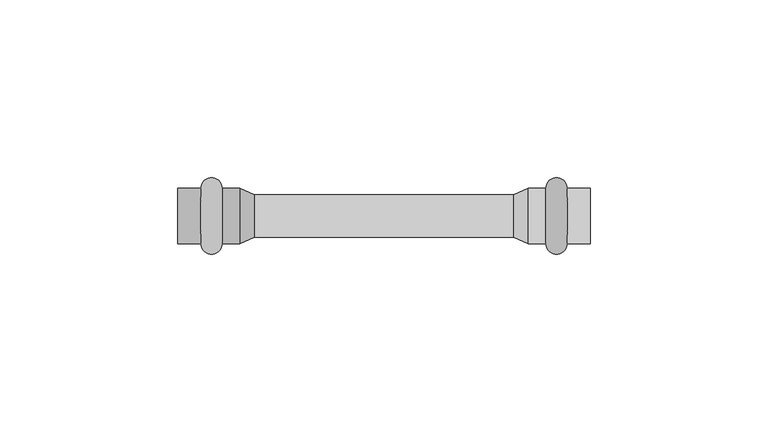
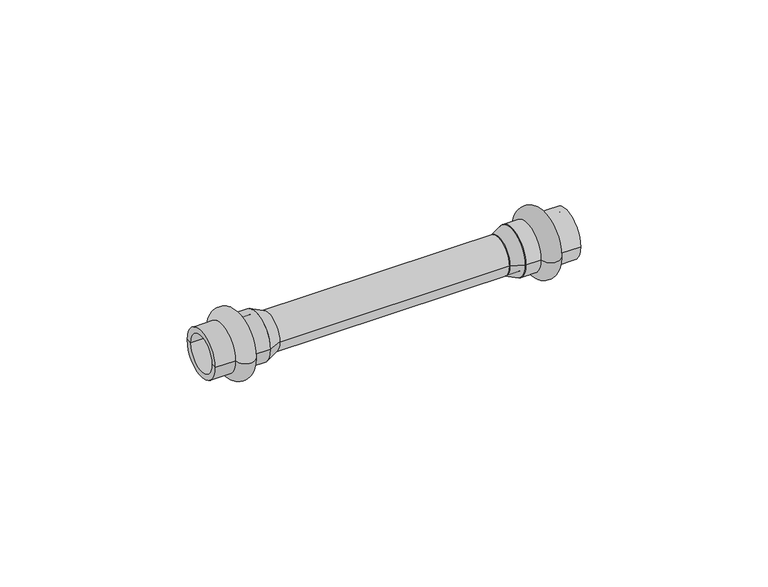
"""IFC4 building model written with IfcOpenShell, lengths in millimetres: pipe fitting geometry, VALTEC_VTi.903.I_Соединитель прямой нержавеющая сталь : VTi.903.I."""

from ifc_helpers import new_model, si_unit, point, frame, origin, origin_2d, place, context, project, spatial, polyline, circle_curve, ellipse_curve, trimmed, segment, composite_curve, outline, extrude, source, transform, mapped, element, save
from ifc_brep_helpers import plane_surface, cylinder_surface, revolved_surface, advanced_brep


def pipe_fitting_80d87ce1(model_context):
    return source(origin(), model_context, "Body", "SolidModel", [
        advanced_brep(
        [(109.5, 7.75, 0.0), (109.5, -7.75, 0.0), (103.5, -7.75, 0.0), (103.5, 7.75, 0.0), (116.0, 7.75, 0.0), (116.0, -7.75, 0.0), (116.0, 6.0, 0.0), (116.0, -6.0, 0.0), (98.6, 6.0, 0.0), (98.6, -6.0, 0.0), (98.6, 7.75, 0.0), (98.6, -7.75, 0.0)],
        [
            (0, 1, circle_curve(frame((109.5, 0.0, 0.0), z_axis=(-1.0, 0.0, 0.0), x_axis=(0.0, -1.0, 0.0)), 7.75)),
            (1, 2, circle_curve(frame((106.5, -7.75, 0.0), z_axis=(0.0, 0.0, -1.0), x_axis=(-1.0, 0.0, 0.0)), 3.0)),
            (2, 3, circle_curve(frame((103.5, 0.0, 0.0), z_axis=(1.0, 0.0, 0.0), x_axis=(0.0, -1.0, 0.0)), 7.75)),
            (3, 0, circle_curve(frame((106.5, 7.75, 0.0), z_axis=(0.0, 0.0, -1.0), x_axis=(-1.0, 0.0, 0.0)), 3.0)),
            (1, 0, circle_curve(frame((109.5, 0.0, 0.0), z_axis=(-1.0, 0.0, 0.0), x_axis=(0.0, -1.0, 0.0)), 7.75)),
            (3, 2, circle_curve(frame((103.5, 0.0, 0.0), z_axis=(1.0, 0.0, 0.0), x_axis=(0.0, -1.0, 0.0)), 7.75)),
            (4, 5, circle_curve(frame((116.0, 0.0, 0.0), z_axis=(-1.0, 0.0, 0.0), x_axis=(0.0, -1.0, 0.0)), 7.75)),
            (5, 1),
            (0, 4),
            (5, 4, circle_curve(frame((116.0, 0.0, 0.0), z_axis=(-1.0, 0.0, 0.0), x_axis=(0.0, -1.0, 0.0)), 7.75)),
            (6, 7, circle_curve(frame((116.0, 0.0, 0.0), z_axis=(-1.0, 0.0, 0.0), x_axis=(0.0, -1.0, 0.0)), 6.0)),
            (7, 5),
            (4, 6),
            (7, 6, circle_curve(frame((116.0, 0.0, 0.0), z_axis=(-1.0, 0.0, 0.0), x_axis=(0.0, -1.0, 0.0)), 6.0)),
            (8, 9, circle_curve(frame((98.6, 0.0, 0.0), z_axis=(-1.0, 0.0, 0.0), x_axis=(0.0, -1.0, 0.0)), 6.0)),
            (9, 7),
            (6, 8),
            (9, 8, circle_curve(frame((98.6, 0.0, 0.0), z_axis=(-1.0, 0.0, 0.0), x_axis=(0.0, -1.0, 0.0)), 6.0)),
            (10, 11, circle_curve(frame((98.6, 0.0, 0.0), z_axis=(-1.0, 0.0, 0.0), x_axis=(0.0, -1.0, 0.0)), 7.75)),
            (11, 9),
            (8, 10),
            (11, 10, circle_curve(frame((98.6, 0.0, 0.0), z_axis=(-1.0, 0.0, 0.0), x_axis=(0.0, -1.0, 0.0)), 7.75)),
            (2, 11),
            (10, 3),
        ],
        [
            revolved_surface(trimmed(ellipse_curve(frame((106.5, -7.75, 0.0), z_axis=(0.0, 0.0, 1.0), x_axis=(-1.0, 0.0, 0.0)), 3.0, 3.0), [point((103.5, -7.75, 0.0))], [point((109.5, -7.75, 0.0))], True, "CARTESIAN"), (119.5364426, 0.0, 0.0), (1.0, 0.0, 0.0)),
            cylinder_surface(frame((119.5364426, 0.0, 0.0), z_axis=(1.0, 0.0, 0.0), x_axis=(0.0, -1.0, 0.0)), 7.75),
            plane_surface(frame((116.0, 0.0, 0.0), z_axis=(1.0, 0.0, 0.0), x_axis=(0.0, -1.0, 0.0))),
            revolved_surface(polyline([(116.0, -6.0, 0.0), (98.6, -6.0, 0.0)]), (119.5364426, 0.0, 0.0), (1.0, 0.0, 0.0)),
            plane_surface(frame((98.6, 0.0, 0.0), z_axis=(-1.0, 0.0, 0.0), x_axis=(0.0, -1.0, 0.0))),
        ],
        [
            (0, [[1, 2, 3, 4]]),
            (0, [[5, -4, 6, -2]]),
            (1, [[7, 8, -1, 9]]),
            (1, [[10, -9, -5, -8]]),
            (2, [[11, 12, -7, 13]]),
            (2, [[14, -13, -10, -12]]),
            (3, [[15, 16, -11, 17]]),
            (3, [[18, -17, -14, -16]]),
            (4, [[19, 20, -15, 21]]),
            (4, [[22, -21, -18, -20]]),
            (1, [[-3, 23, -19, 24]]),
            (1, [[-6, -24, -22, -23]]),
        ],
    ),
        advanced_brep(
        [(6.5, -7.75, 0.0), (6.5, 7.75, 0.0), (12.5, 7.75, 0.0), (12.5, -7.75, 0.0), (0.0, -7.75, 0.0), (0.0, 7.75, 0.0), (0.0, -6.0, 0.0), (0.0, 6.0, 0.0), (17.4, -6.0, 0.0), (17.4, 6.0, 0.0), (17.4, -7.75, 0.0), (17.4, 7.75, 0.0)],
        [
            (0, 1, circle_curve(frame((6.5, 0.0, 0.0), z_axis=(1.0, 0.0, 0.0), x_axis=(0.0, 1.0, 0.0)), 7.75)),
            (1, 2, circle_curve(frame((9.5, 7.75, 0.0), z_axis=(0.0, 0.0, -1.0), x_axis=(1.0, 0.0, 0.0)), 3.0)),
            (2, 3, circle_curve(frame((12.5, 0.0, 0.0), z_axis=(-1.0, 0.0, 0.0), x_axis=(0.0, 1.0, 0.0)), 7.75)),
            (3, 0, circle_curve(frame((9.5, -7.75, 0.0), z_axis=(0.0, 0.0, -1.0), x_axis=(1.0, 0.0, 0.0)), 3.0)),
            (1, 0, circle_curve(frame((6.5, 0.0, 0.0), z_axis=(1.0, 0.0, 0.0), x_axis=(0.0, 1.0, 0.0)), 7.75)),
            (3, 2, circle_curve(frame((12.5, 0.0, 0.0), z_axis=(-1.0, 0.0, 0.0), x_axis=(0.0, 1.0, 0.0)), 7.75)),
            (4, 5, circle_curve(frame((0.0, 0.0, 0.0), z_axis=(1.0, 0.0, 0.0), x_axis=(0.0, 1.0, 0.0)), 7.75)),
            (5, 1),
            (0, 4),
            (5, 4, circle_curve(frame((0.0, 0.0, 0.0), z_axis=(1.0, 0.0, 0.0), x_axis=(0.0, 1.0, 0.0)), 7.75)),
            (6, 7, circle_curve(frame((0.0, 0.0, 0.0), z_axis=(1.0, 0.0, 0.0), x_axis=(0.0, 1.0, 0.0)), 6.0)),
            (7, 5),
            (4, 6),
            (7, 6, circle_curve(frame((0.0, 0.0, 0.0), z_axis=(1.0, 0.0, 0.0), x_axis=(0.0, 1.0, 0.0)), 6.0)),
            (8, 9, circle_curve(frame((17.4, 0.0, 0.0), z_axis=(1.0, 0.0, 0.0), x_axis=(0.0, 1.0, 0.0)), 6.0)),
            (9, 7),
            (6, 8),
            (9, 8, circle_curve(frame((17.4, 0.0, 0.0), z_axis=(1.0, 0.0, 0.0), x_axis=(0.0, 1.0, 0.0)), 6.0)),
            (10, 11, circle_curve(frame((17.4, 0.0, 0.0), z_axis=(1.0, 0.0, 0.0), x_axis=(0.0, 1.0, 0.0)), 7.75)),
            (11, 9),
            (8, 10),
            (11, 10, circle_curve(frame((17.4, 0.0, 0.0), z_axis=(1.0, 0.0, 0.0), x_axis=(0.0, 1.0, 0.0)), 7.75)),
            (2, 11),
            (10, 3),
        ],
        [
            revolved_surface(trimmed(ellipse_curve(frame((9.5, 7.75, 0.0), z_axis=(0.0, 0.0, 1.0), x_axis=(1.0, 0.0, 0.0)), 3.0, 3.0), [point((12.5, 7.75, 0.0))], [point((6.5, 7.75, 0.0))], True, "CARTESIAN"), (-3.5364426, 0.0, 0.0), (-1.0, 0.0, 0.0)),
            cylinder_surface(frame((-3.5364426, 0.0, 0.0), z_axis=(-1.0, 0.0, 0.0), x_axis=(0.0, 1.0, 0.0)), 7.75),
            plane_surface(frame((0.0, 0.0, 0.0), z_axis=(-1.0, 0.0, 0.0), x_axis=(0.0, 1.0, 0.0))),
            revolved_surface(polyline([(0.0, 6.0, 0.0), (17.4, 6.0, 0.0)]), (-3.5364426, 0.0, 0.0), (-1.0, 0.0, 0.0)),
            plane_surface(frame((17.4, 0.0, 0.0), z_axis=(1.0, 0.0, 0.0), x_axis=(0.0, 1.0, 0.0))),
        ],
        [
            (0, [[1, 2, 3, 4]]),
            (0, [[5, -4, 6, -2]]),
            (1, [[7, 8, -1, 9]]),
            (1, [[10, -9, -5, -8]]),
            (2, [[11, 12, -7, 13]]),
            (2, [[14, -13, -10, -12]]),
            (3, [[15, 16, -11, 17]]),
            (3, [[18, -17, -14, -16]]),
            (4, [[19, 20, -15, 21]]),
            (4, [[22, -21, -18, -20]]),
            (1, [[-3, 23, -19, 24]]),
            (1, [[-6, -24, -22, -23]]),
        ],
    ),
        advanced_brep(
        [(17.4, -7.75, 0.0), (17.4, 7.75, 0.0), (21.46, -6.0, 0.0), (21.46, 6.0, 0.0)],
        [
            (0, 1, circle_curve(frame((17.4, 0.0, 0.0), z_axis=(-1.0, 0.0, 0.0), x_axis=(0.0, -1.0, 0.0)), 7.75)),
            (1, 0, circle_curve(frame((17.4, 0.0, 0.0), z_axis=(-1.0, 0.0, 0.0), x_axis=(0.0, 1.0, 0.0)), 7.75)),
            (2, 3, circle_curve(frame((21.46, 0.0, 0.0), z_axis=(1.0, 0.0, 0.0), x_axis=(0.0, 1.0, 0.0)), 6.0)),
            (3, 2, circle_curve(frame((21.46, 0.0, 0.0), z_axis=(1.0, 0.0, 0.0), x_axis=(0.0, -1.0, 0.0)), 6.0)),
            (2, 0),
            (1, 3),
        ],
        [
            plane_surface(frame((17.4, 0.0, 0.0), z_axis=(-1.0, 0.0, 0.0), x_axis=(0.0, 0.0, 1.0))),
            plane_surface(frame((21.46, 0.0, 0.0), z_axis=(1.0, 0.0, 0.0), x_axis=(0.0, 0.0, 1.0))),
            revolved_surface(polyline([(21.46, -6.0, 0.0), (17.4, -7.75, 0.0)]), (35.38, 0.0, 0.0), (-1.0, 0.0, 0.0)),
            revolved_surface(polyline([(21.46, 6.0, 0.0), (17.4, 7.75, 0.0)]), (35.38, 0.0, 0.0), (-1.0, 0.0, 0.0)),
        ],
        [
            (0, [[1, 2]]),
            (1, [[3, 4]]),
            (2, [[-3, 5, -2, 6]]),
            (3, [[-4, -6, -1, -5]]),
        ],
    ),
        advanced_brep(
        [(98.6, -7.75, 0.0), (98.6, 7.75, 0.0), (94.54, -6.0, 0.0), (94.54, 6.0, 0.0)],
        [
            (0, 1, circle_curve(frame((98.6, 0.0, 0.0), z_axis=(1.0, 0.0, 0.0), x_axis=(0.0, -1.0, 0.0)), 7.75)),
            (1, 0, circle_curve(frame((98.6, 0.0, 0.0), z_axis=(1.0, 0.0, 0.0), x_axis=(0.0, 1.0, 0.0)), 7.75)),
            (2, 3, circle_curve(frame((94.54, 0.0, 0.0), z_axis=(-1.0, 0.0, 0.0), x_axis=(0.0, 1.0, 0.0)), 6.0)),
            (3, 2, circle_curve(frame((94.54, 0.0, 0.0), z_axis=(-1.0, 0.0, 0.0), x_axis=(0.0, -1.0, 0.0)), 6.0)),
            (3, 1),
            (0, 2),
        ],
        [
            plane_surface(frame((98.6, 0.0, 0.0), z_axis=(1.0, 0.0, 0.0), x_axis=(0.0, 0.0, -1.0))),
            plane_surface(frame((94.54, 0.0, 0.0), z_axis=(-1.0, 0.0, 0.0), x_axis=(0.0, 0.0, -1.0))),
            revolved_surface(polyline([(94.54, 6.000000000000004, 0.0), (98.6, 7.75, 0.0)]), (80.62, 0.0, 0.0), (1.0, 0.0, 0.0)),
            revolved_surface(polyline([(94.54, -6.000000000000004, 0.0), (98.6, -7.75, 0.0)]), (80.62, 0.0, 0.0), (1.0, 0.0, 0.0)),
        ],
        [
            (0, [[1, 2]]),
            (1, [[3, 4]]),
            (2, [[-4, 5, -1, 6]]),
            (3, [[-3, -6, -2, -5]]),
        ],
    ),
        extrude(outline(composite_curve([segment(trimmed(circle_curve(origin_2d(), 6.0), [point((-6.0, 0.0))], [point((6.0, 0.0))], False, "CARTESIAN"), True, "CONTINUOUS"), segment(trimmed(circle_curve(origin_2d(), 6.0), [point((6.0, 0.0))], [point((-6.0, 0.0))], False, "CARTESIAN"), True, "CONTINUOUS")], self_intersect=False)), frame((17.4, 0.0, 0.0), z_axis=(1.0, 0.0, 0.0), x_axis=(0.0, 1.0, 0.0)), (0.0, 0.0, 1.0), 81.2),
    ])


if __name__ == "__main__":
    model = new_model("IFC4")
    model_context = context("Model", 3, world=origin())
    ifc_project = project(units=[si_unit("LENGTHUNIT", "METRE", prefix="MILLI")], contexts=[model_context])
    site = spatial("IfcSite", under=ifc_project)
    building = spatial("IfcBuilding", under=site)
    placement = place(None, origin())
    pipe_fitting_shape = pipe_fitting_80d87ce1(model_context)
    element("IfcPipeFitting", 1, ObjectType="VALTEC_VTi.903.I_Соединитель прямой нержавеющая сталь : VTi.903.I", at=placement, inside=building, context=model_context, shape_type="MappedRepresentation", body=[
        mapped(pipe_fitting_shape, transform((0.0, 0.0, 0.0), x_axis=(1.0, 0.0, 0.0), y_axis=(0.0, 1.0, 0.0), z_axis=(0.0, 0.0, 1.0))),
    ])
    save(model, "model.ifc")
